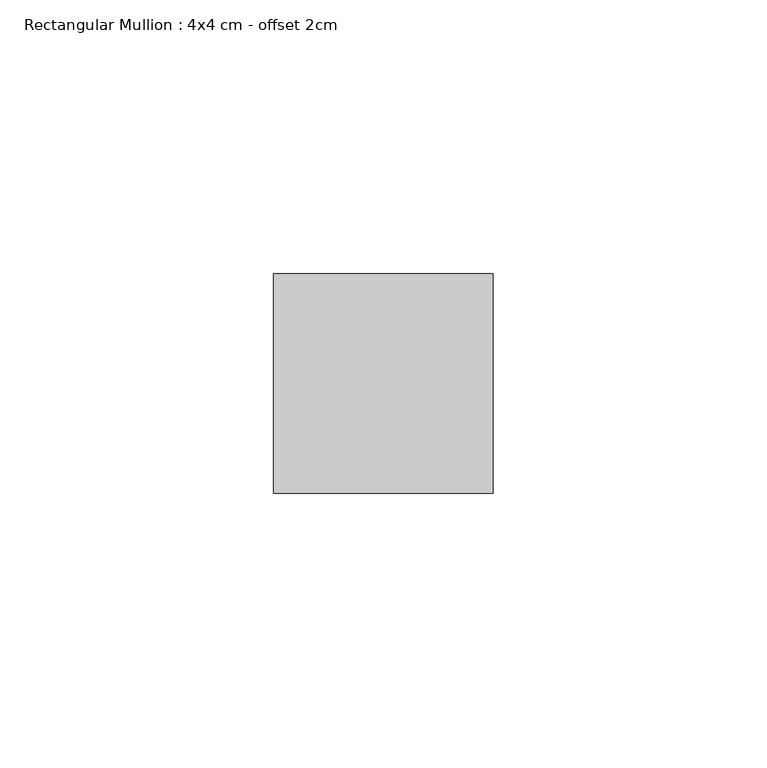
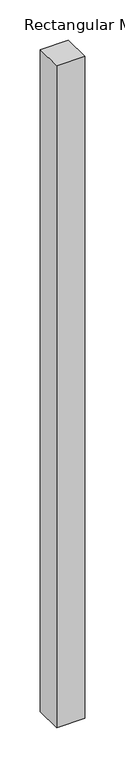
"""IFC4 building model written with IfcOpenShell, lengths in millimetres: member geometry, Rectangular Mullion : 4x4 cm - offset 2cm."""

from ifc_helpers import new_model, si_unit, frame, origin, place, context, project, spatial, polyline, outline, extrude, source, transform, mapped, element, save


def rectangular_mullion_4x4_cm_offset_2cm_dcd03643(model_context):
    return source(origin(), model_context, "Body", "SweptSolid", [
        extrude(outline(polyline([(40.0, 40.0), (40.0, 0.0), (0.0, 0.0), (0.0, 40.0), (40.0, 40.0)])), frame((0.0, 0.0, -1000.0), z_axis=(0.0, 0.0, 1.0), x_axis=(1.0, 0.0, 0.0)), (0.0, 0.0, 1.0), 1000.0),
    ])


if __name__ == "__main__":
    model = new_model("IFC4")
    model_context = context("Model", 3, world=origin())
    ifc_project = project(units=[si_unit("LENGTHUNIT", "METRE", prefix="MILLI")], contexts=[model_context])
    site = spatial("IfcSite", under=ifc_project)
    building = spatial("IfcBuilding", under=site)
    placement = place(None, origin())
    rectangular_mullion_4x4_cm_offset_2cm_shape = rectangular_mullion_4x4_cm_offset_2cm_dcd03643(model_context)
    element("IfcMember", 1, ObjectType="Rectangular Mullion : 4x4 cm - offset 2cm", at=placement, inside=building, context=model_context, shape_type="MappedRepresentation", body=[
        mapped(rectangular_mullion_4x4_cm_offset_2cm_shape, transform((0.0, 0.0, 0.0), x_axis=(1.0, 0.0, 0.0), y_axis=(0.0, 1.0, 0.0), z_axis=(0.0, 0.0, 1.0))),
    ])
    save(model, "model.ifc")
